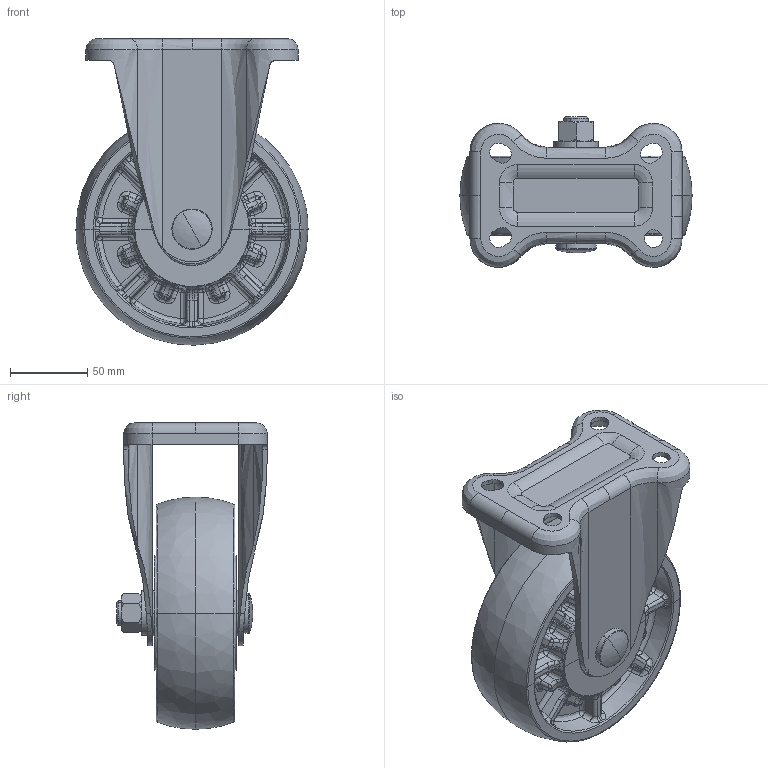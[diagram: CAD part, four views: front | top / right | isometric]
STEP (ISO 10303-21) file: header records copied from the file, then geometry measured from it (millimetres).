
FILE_DESCRIPTION (( 'STEP AP214' ), '1' );
FILE_NAME ('ME-150WK_stp.STEP', '2022-07-22T09:01:10', ( '' ), ( '' ), 'SwSTEP 2.0', 'SolidWorks 2010', '' );
FILE_SCHEMA (( 'AUTOMOTIVE_DESIGN' ));
Length unit declared in the file: millimetre
Products named in the file (7): ME-150WK-20; ME-150WK-21; ME-150WK-22; ME-150WK-23; ME-150WK-24; ME-150WK-25; ME-150WK_stp
Assembly tree (6 placements, depth 2):
  ME-150WK_stp
    ME-150WK-23
    ME-150WK-25
    ME-150WK-20
    ME-150WK-22
    ME-150WK-24
    ME-150WK-21
Bounding box: 150 x 97.5 x 197.99 mm (x, y, z)
Volume: 687172.7 mm3; surface area: 172308 mm2
Topology: 6 solids, 8 shells, 1333 faces, 3354 edges, 1917 vertices
Faces by surface type: bspline 1276, plane 57
Entity records: 132437 total; most frequent: CARTESIAN_POINT 106241, ORIENTED_EDGE 6472, EDGE_CURVE 3240, B_SPLINE_CURVE_WITH_KNOTS 3014, VERTEX_POINT 1917, EDGE_LOOP 1350, ADVANCED_FACE 1333, FACE_OUTER_BOUND 1333
